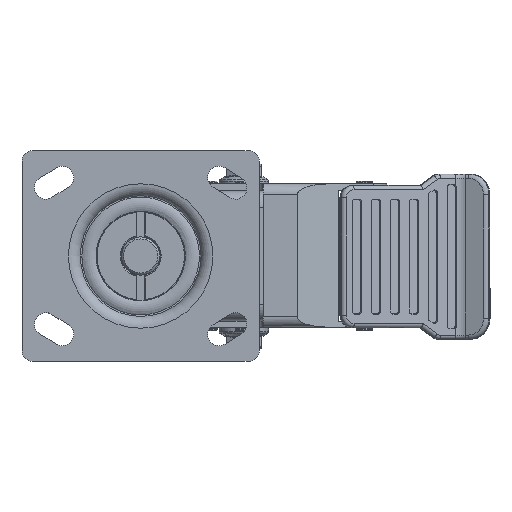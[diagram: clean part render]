
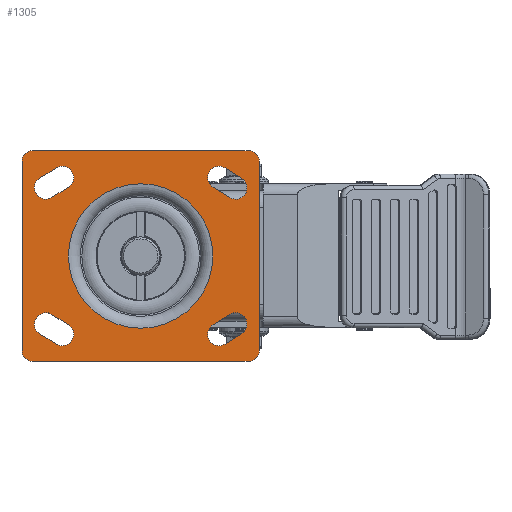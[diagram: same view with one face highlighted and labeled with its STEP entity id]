
A CAD part, top view. The second image highlights one B-rep face of the part: STEP entity #1305.
In plain terms, the highlighted planar face has unit normal (0, 0, 1).
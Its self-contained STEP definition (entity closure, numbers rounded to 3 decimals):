
#188=CARTESIAN_POINT('',(35.,0.0,2.07));
#189=VERTEX_POINT('',#188);
#190=CARTESIAN_POINT('',(0.,0.0,2.07));
#191=DIRECTION('',(0.0,0.0,-1.0));
#192=DIRECTION('',(1.0,0.0,0.0));
#193=AXIS2_PLACEMENT_3D('',#190,#191,#192);
#194=CIRCLE('',#193,35.);
#195=EDGE_CURVE('',#189,#189,#194,.T.);
#510=CARTESIAN_POINT('',(35.085,33.336,2.07));
#511=VERTEX_POINT('',#510);
#518=CARTESIAN_POINT('',(43.085,28.336,2.07));
#519=VERTEX_POINT('',#518);
#520=CARTESIAN_POINT('',(43.085,28.336,2.07));
#521=DIRECTION('',(-0.848,0.53,0.0));
#522=VECTOR('',#521,9.434);
#523=LINE('',#520,#522);
#524=EDGE_CURVE('',#519,#511,#523,.T.);
#550=CARTESIAN_POINT('',(48.915,37.664,2.07));
#551=VERTEX_POINT('',#550);
#552=CARTESIAN_POINT('',(46.,33.,2.07));
#553=DIRECTION('',(0.0,0.0,-1.0));
#554=DIRECTION('',(1.0,0.0,0.0));
#555=AXIS2_PLACEMENT_3D('',#552,#553,#554);
#556=CIRCLE('',#555,5.5);
#557=EDGE_CURVE('',#551,#519,#556,.T.);
#582=CARTESIAN_POINT('',(40.915,42.664,2.07));
#583=VERTEX_POINT('',#582);
#584=CARTESIAN_POINT('',(40.915,42.664,2.07));
#585=DIRECTION('',(0.848,-0.53,0.0));
#586=VECTOR('',#585,9.434);
#587=LINE('',#584,#586);
#588=EDGE_CURVE('',#583,#551,#587,.T.);
#612=CARTESIAN_POINT('',(38.,38.,2.07));
#613=DIRECTION('',(0.0,0.0,-1.0));
#614=DIRECTION('',(1.0,0.0,0.0));
#615=AXIS2_PLACEMENT_3D('',#612,#613,#614);
#616=CIRCLE('',#615,5.5);
#617=EDGE_CURVE('',#511,#583,#616,.T.);
#639=CARTESIAN_POINT('',(57.5,-46.0,2.07));
#640=VERTEX_POINT('',#639);
#647=CARTESIAN_POINT('',(52.5,-51.0,2.07));
#648=VERTEX_POINT('',#647);
#649=CARTESIAN_POINT('',(52.5,-46.0,2.07));
#650=DIRECTION('',(0.0,0.0,1.0));
#651=DIRECTION('',(1.0,0.0,0.0));
#652=AXIS2_PLACEMENT_3D('',#649,#650,#651);
#653=CIRCLE('',#652,5.0);
#654=EDGE_CURVE('',#648,#640,#653,.T.);
#679=CARTESIAN_POINT('',(-52.5,-51.0,2.07));
#680=VERTEX_POINT('',#679);
#681=CARTESIAN_POINT('',(-52.5,-51.0,2.07));
#682=DIRECTION('',(1.0,0.0,0.0));
#683=VECTOR('',#682,105.0);
#684=LINE('',#681,#683);
#685=EDGE_CURVE('',#680,#648,#684,.T.);
#711=CARTESIAN_POINT('',(-57.5,-46.0,2.07));
#712=VERTEX_POINT('',#711);
#713=CARTESIAN_POINT('',(-52.5,-46.0,2.07));
#714=DIRECTION('',(0.0,0.0,1.0));
#715=DIRECTION('',(1.0,0.0,0.0));
#716=AXIS2_PLACEMENT_3D('',#713,#714,#715);
#717=CIRCLE('',#716,5.0);
#718=EDGE_CURVE('',#712,#680,#717,.T.);
#743=CARTESIAN_POINT('',(-57.5,46.,2.07));
#744=VERTEX_POINT('',#743);
#745=CARTESIAN_POINT('',(-57.5,46.,2.07));
#746=DIRECTION('',(0.0,-1.0,0.0));
#747=VECTOR('',#746,92.);
#748=LINE('',#745,#747);
#749=EDGE_CURVE('',#744,#712,#748,.T.);
#775=CARTESIAN_POINT('',(-52.5,51.,2.07));
#776=VERTEX_POINT('',#775);
#777=CARTESIAN_POINT('',(-52.5,46.,2.07));
#778=DIRECTION('',(0.0,0.0,1.0));
#779=DIRECTION('',(1.0,0.0,0.0));
#780=AXIS2_PLACEMENT_3D('',#777,#778,#779);
#781=CIRCLE('',#780,5.0);
#782=EDGE_CURVE('',#776,#744,#781,.T.);
#807=CARTESIAN_POINT('',(52.5,51.,2.07));
#808=VERTEX_POINT('',#807);
#809=CARTESIAN_POINT('',(52.5,51.,2.07));
#810=DIRECTION('',(-1.0,0.0,0.0));
#811=VECTOR('',#810,105.);
#812=LINE('',#809,#811);
#813=EDGE_CURVE('',#808,#776,#812,.T.);
#839=CARTESIAN_POINT('',(57.5,46.,2.07));
#840=VERTEX_POINT('',#839);
#841=CARTESIAN_POINT('',(52.5,46.,2.07));
#842=DIRECTION('',(0.0,0.0,1.0));
#843=DIRECTION('',(1.0,0.0,0.0));
#844=AXIS2_PLACEMENT_3D('',#841,#842,#843);
#845=CIRCLE('',#844,5.0);
#846=EDGE_CURVE('',#840,#808,#845,.T.);
#869=CARTESIAN_POINT('',(57.5,-46.0,2.07));
#870=DIRECTION('',(0.0,1.0,0.0));
#871=VECTOR('',#870,92.);
#872=LINE('',#869,#871);
#873=EDGE_CURVE('',#640,#840,#872,.T.);
#894=CARTESIAN_POINT('',(-35.085,-33.336,2.07));
#895=VERTEX_POINT('',#894);
#902=CARTESIAN_POINT('',(-43.085,-28.336,2.07));
#903=VERTEX_POINT('',#902);
#904=CARTESIAN_POINT('',(-43.085,-28.336,2.07));
#905=DIRECTION('',(0.848,-0.53,0.0));
#906=VECTOR('',#905,9.434);
#907=LINE('',#904,#906);
#908=EDGE_CURVE('',#903,#895,#907,.T.);
#934=CARTESIAN_POINT('',(-48.915,-37.664,2.07));
#935=VERTEX_POINT('',#934);
#936=CARTESIAN_POINT('',(-46.,-33.,2.07));
#937=DIRECTION('',(0.0,0.0,-1.0));
#938=DIRECTION('',(1.0,0.0,0.0));
#939=AXIS2_PLACEMENT_3D('',#936,#937,#938);
#940=CIRCLE('',#939,5.5);
#941=EDGE_CURVE('',#935,#903,#940,.T.);
#966=CARTESIAN_POINT('',(-40.915,-42.664,2.07));
#967=VERTEX_POINT('',#966);
#968=CARTESIAN_POINT('',(-40.915,-42.664,2.07));
#969=DIRECTION('',(-0.848,0.53,0.0));
#970=VECTOR('',#969,9.434);
#971=LINE('',#968,#970);
#972=EDGE_CURVE('',#967,#935,#971,.T.);
#996=CARTESIAN_POINT('',(-38.,-38.,2.07));
#997=DIRECTION('',(0.0,0.0,-1.0));
#998=DIRECTION('',(1.0,0.0,0.0));
#999=AXIS2_PLACEMENT_3D('',#996,#997,#998);
#1000=CIRCLE('',#999,5.5);
#1001=EDGE_CURVE('',#895,#967,#1000,.T.);
#1022=CARTESIAN_POINT('',(-40.915,42.664,2.07));
#1023=VERTEX_POINT('',#1022);
#1030=CARTESIAN_POINT('',(-48.915,37.664,2.07));
#1031=VERTEX_POINT('',#1030);
#1032=CARTESIAN_POINT('',(-48.915,37.664,2.07));
#1033=DIRECTION('',(0.848,0.53,0.0));
#1034=VECTOR('',#1033,9.434);
#1035=LINE('',#1032,#1034);
#1036=EDGE_CURVE('',#1031,#1023,#1035,.T.);
#1062=CARTESIAN_POINT('',(-43.085,28.336,2.07));
#1063=VERTEX_POINT('',#1062);
#1064=CARTESIAN_POINT('',(-46.,33.,2.07));
#1065=DIRECTION('',(0.0,0.0,-1.0));
#1066=DIRECTION('',(1.0,0.0,0.0));
#1067=AXIS2_PLACEMENT_3D('',#1064,#1065,#1066);
#1068=CIRCLE('',#1067,5.5);
#1069=EDGE_CURVE('',#1063,#1031,#1068,.T.);
#1094=CARTESIAN_POINT('',(-35.085,33.336,2.07));
#1095=VERTEX_POINT('',#1094);
#1096=CARTESIAN_POINT('',(-35.085,33.336,2.07));
#1097=DIRECTION('',(-0.848,-0.53,0.0));
#1098=VECTOR('',#1097,9.434);
#1099=LINE('',#1096,#1098);
#1100=EDGE_CURVE('',#1095,#1063,#1099,.T.);
#1124=CARTESIAN_POINT('',(-38.,38.,2.07));
#1125=DIRECTION('',(0.0,0.0,-1.0));
#1126=DIRECTION('',(1.0,0.0,0.0));
#1127=AXIS2_PLACEMENT_3D('',#1124,#1125,#1126);
#1128=CIRCLE('',#1127,5.5);
#1129=EDGE_CURVE('',#1023,#1095,#1128,.T.);
#1150=CARTESIAN_POINT('',(40.915,-42.664,2.07));
#1151=VERTEX_POINT('',#1150);
#1158=CARTESIAN_POINT('',(48.915,-37.664,2.07));
#1159=VERTEX_POINT('',#1158);
#1160=CARTESIAN_POINT('',(48.915,-37.664,2.07));
#1161=DIRECTION('',(-0.848,-0.53,0.0));
#1162=VECTOR('',#1161,9.434);
#1163=LINE('',#1160,#1162);
#1164=EDGE_CURVE('',#1159,#1151,#1163,.T.);
#1190=CARTESIAN_POINT('',(43.085,-28.336,2.07));
#1191=VERTEX_POINT('',#1190);
#1192=CARTESIAN_POINT('',(46.,-33.,2.07));
#1193=DIRECTION('',(0.0,0.0,-1.0));
#1194=DIRECTION('',(1.0,0.0,0.0));
#1195=AXIS2_PLACEMENT_3D('',#1192,#1193,#1194);
#1196=CIRCLE('',#1195,5.5);
#1197=EDGE_CURVE('',#1191,#1159,#1196,.T.);
#1222=CARTESIAN_POINT('',(35.085,-33.336,2.07));
#1223=VERTEX_POINT('',#1222);
#1224=CARTESIAN_POINT('',(35.085,-33.336,2.07));
#1225=DIRECTION('',(0.848,0.53,0.0));
#1226=VECTOR('',#1225,9.434);
#1227=LINE('',#1224,#1226);
#1228=EDGE_CURVE('',#1223,#1191,#1227,.T.);
#1252=CARTESIAN_POINT('',(38.,-38.,2.07));
#1253=DIRECTION('',(0.0,0.0,-1.0));
#1254=DIRECTION('',(1.0,0.0,0.0));
#1255=AXIS2_PLACEMENT_3D('',#1252,#1253,#1254);
#1256=CIRCLE('',#1255,5.5);
#1257=EDGE_CURVE('',#1151,#1223,#1256,.T.);
#1263=CARTESIAN_POINT('',(67.5,0.0,2.07));
#1264=DIRECTION('',(0.0,0.0,1.0));
#1265=DIRECTION('',(1.0,0.0,0.0));
#1266=AXIS2_PLACEMENT_3D('',#1263,#1264,#1265);
#1267=PLANE('',#1266);
#1268=ORIENTED_EDGE('',*,*,#782,.T.);
#1269=ORIENTED_EDGE('',*,*,#749,.T.);
#1270=ORIENTED_EDGE('',*,*,#718,.T.);
#1271=ORIENTED_EDGE('',*,*,#685,.T.);
#1272=ORIENTED_EDGE('',*,*,#654,.T.);
#1273=ORIENTED_EDGE('',*,*,#873,.T.);
#1274=ORIENTED_EDGE('',*,*,#846,.T.);
#1275=ORIENTED_EDGE('',*,*,#813,.T.);
#1276=EDGE_LOOP('',(#1268,#1269,#1270,#1271,#1272,#1273,#1274,#1275));
#1277=FACE_OUTER_BOUND('',#1276,.T.);
#1278=ORIENTED_EDGE('',*,*,#588,.T.);
#1279=ORIENTED_EDGE('',*,*,#557,.T.);
#1280=ORIENTED_EDGE('',*,*,#524,.T.);
#1281=ORIENTED_EDGE('',*,*,#617,.T.);
#1282=EDGE_LOOP('',(#1278,#1279,#1280,#1281));
#1283=FACE_BOUND('',#1282,.T.);
#1284=ORIENTED_EDGE('',*,*,#972,.T.);
#1285=ORIENTED_EDGE('',*,*,#941,.T.);
#1286=ORIENTED_EDGE('',*,*,#908,.T.);
#1287=ORIENTED_EDGE('',*,*,#1001,.T.);
#1288=EDGE_LOOP('',(#1284,#1285,#1286,#1287));
#1289=FACE_BOUND('',#1288,.T.);
#1290=ORIENTED_EDGE('',*,*,#1100,.T.);
#1291=ORIENTED_EDGE('',*,*,#1069,.T.);
#1292=ORIENTED_EDGE('',*,*,#1036,.T.);
#1293=ORIENTED_EDGE('',*,*,#1129,.T.);
#1294=EDGE_LOOP('',(#1290,#1291,#1292,#1293));
#1295=FACE_BOUND('',#1294,.T.);
#1296=ORIENTED_EDGE('',*,*,#1228,.T.);
#1297=ORIENTED_EDGE('',*,*,#1197,.T.);
#1298=ORIENTED_EDGE('',*,*,#1164,.T.);
#1299=ORIENTED_EDGE('',*,*,#1257,.T.);
#1300=EDGE_LOOP('',(#1296,#1297,#1298,#1299));
#1301=FACE_BOUND('',#1300,.T.);
#1302=ORIENTED_EDGE('',*,*,#195,.T.);
#1303=EDGE_LOOP('',(#1302));
#1304=FACE_BOUND('',#1303,.T.);
#1305=ADVANCED_FACE('',(#1277,#1283,#1289,#1295,#1301,#1304),#1267,.T.);
